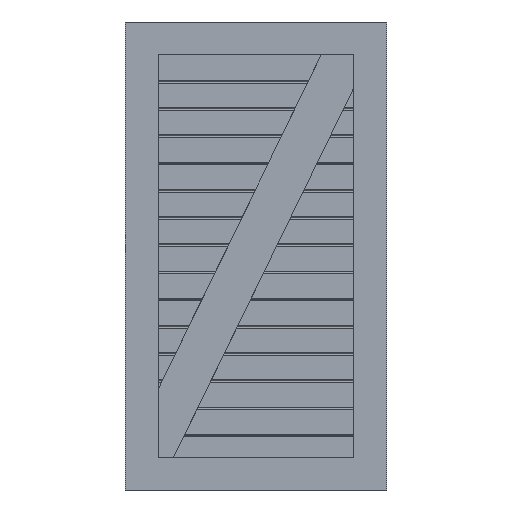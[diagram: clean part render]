
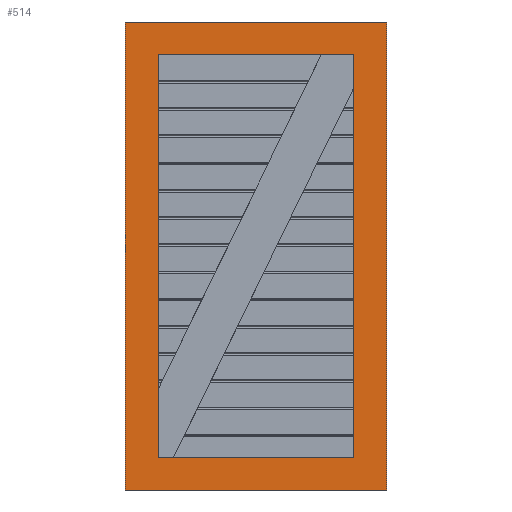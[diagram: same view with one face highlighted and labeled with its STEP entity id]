
A CAD part, left-side view. The second image highlights one B-rep face of the part: STEP entity #514.
In plain terms, the highlighted planar face has unit normal (-1, 0, 0).
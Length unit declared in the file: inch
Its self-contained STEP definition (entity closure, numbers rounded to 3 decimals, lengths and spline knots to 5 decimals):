
#5 = EDGE_CURVE ( 'NONE', #391, #2576, #1829, .T. ) ;
#50 = VERTEX_POINT ( 'NONE', #1396 ) ;
#184 = ORIENTED_EDGE ( 'NONE', *, *, #1560, .F. ) ;
#211 = ORIENTED_EDGE ( 'NONE', *, *, #1017, .T. ) ;
#241 = CARTESIAN_POINT ( 'NONE',  ( -4.1875, 0.375, -2.3125 ) ) ;
#273 = VERTEX_POINT ( 'NONE', #2695 ) ;
#303 = ORIENTED_EDGE ( 'NONE', *, *, #1569, .F. ) ;
#357 = VERTEX_POINT ( 'NONE', #1835 ) ;
#371 = VECTOR ( 'NONE', #1880, 39.37008 ) ;
#391 = VERTEX_POINT ( 'NONE', #3031 ) ;
#474 = CARTESIAN_POINT ( 'NONE',  ( -4.1875, 0., 2.6875 ) ) ;
#485 = CARTESIAN_POINT ( 'NONE',  ( -4.1875, 0.375, 2.3125 ) ) ;
#491 = CARTESIAN_POINT ( 'NONE',  ( -4.1875, 2.625, -2.3125 ) ) ;
#498 = PLANE ( 'NONE',  #1337 ) ;
#509 = DIRECTION ( 'NONE',  ( 1., 0., 0. ) ) ;
#514 = ADVANCED_FACE ( 'NONE', ( #1012, #686 ), #498, .F. ) ;
#686 = FACE_BOUND ( 'NONE', #2447, .T. ) ;
#708 = DIRECTION ( 'NONE',  ( 0., -1., 0. ) ) ;
#744 = VERTEX_POINT ( 'NONE', #2472 ) ;
#861 = VECTOR ( 'NONE', #3027, 39.37008 ) ;
#898 = ORIENTED_EDGE ( 'NONE', *, *, #5, .T. ) ;
#907 = VECTOR ( 'NONE', #708, 39.37008 ) ;
#975 = EDGE_CURVE ( 'NONE', #273, #391, #1478, .T. ) ;
#1012 = FACE_OUTER_BOUND ( 'NONE', #1311, .T. ) ;
#1017 = EDGE_CURVE ( 'NONE', #357, #1419, #2774, .T. ) ;
#1081 = ORIENTED_EDGE ( 'NONE', *, *, #1611, .T. ) ;
#1160 = DIRECTION ( 'NONE',  ( 0., 0., -1. ) ) ;
#1166 = ORIENTED_EDGE ( 'NONE', *, *, #2453, .T. ) ;
#1173 = VECTOR ( 'NONE', #2048, 39.37008 ) ;
#1212 = DIRECTION ( 'NONE',  ( 0., 1., 0. ) ) ;
#1311 = EDGE_LOOP ( 'NONE', ( #211, #184, #303, #1166 ) ) ;
#1337 = AXIS2_PLACEMENT_3D ( 'NONE', #2383, #509, #2149 ) ;
#1396 = CARTESIAN_POINT ( 'NONE',  ( -4.1875, 3., 2.6875 ) ) ;
#1419 = VERTEX_POINT ( 'NONE', #2959 ) ;
#1427 = LINE ( 'NONE', #1873, #861 ) ;
#1478 = LINE ( 'NONE', #241, #2138 ) ;
#1560 = EDGE_CURVE ( 'NONE', #50, #1419, #2357, .T. ) ;
#1569 = EDGE_CURVE ( 'NONE', #744, #50, #1803, .T. ) ;
#1583 = CARTESIAN_POINT ( 'NONE',  ( -4.1875, 3., 2.6875 ) ) ;
#1611 = EDGE_CURVE ( 'NONE', #2576, #2706, #1844, .T. ) ;
#1712 = VECTOR ( 'NONE', #1212, 39.37008 ) ;
#1803 = LINE ( 'NONE', #1583, #1173 ) ;
#1829 = LINE ( 'NONE', #2359, #1712 ) ;
#1835 = CARTESIAN_POINT ( 'NONE',  ( -4.1875, 0., -2.6875 ) ) ;
#1844 = LINE ( 'NONE', #491, #371 ) ;
#1873 = CARTESIAN_POINT ( 'NONE',  ( -4.1875, 3., -2.6875 ) ) ;
#1880 = DIRECTION ( 'NONE',  ( 0., 0., 1. ) ) ;
#2026 = VECTOR ( 'NONE', #3046, 39.37008 ) ;
#2048 = DIRECTION ( 'NONE',  ( 0., 0., 1. ) ) ;
#2066 = EDGE_CURVE ( 'NONE', #2706, #273, #3023, .T. ) ;
#2079 = ORIENTED_EDGE ( 'NONE', *, *, #975, .T. ) ;
#2091 = DIRECTION ( 'NONE',  ( 0., -1., 0. ) ) ;
#2138 = VECTOR ( 'NONE', #1160, 39.37008 ) ;
#2145 = CARTESIAN_POINT ( 'NONE',  ( -4.1875, 2.625, -2.3125 ) ) ;
#2149 = DIRECTION ( 'NONE',  ( 0., 0., -1. ) ) ;
#2297 = CARTESIAN_POINT ( 'NONE',  ( -4.1875, 3., 2.6875 ) ) ;
#2357 = LINE ( 'NONE', #2297, #2982 ) ;
#2359 = CARTESIAN_POINT ( 'NONE',  ( -4.1875, 0.375, -2.3125 ) ) ;
#2383 = CARTESIAN_POINT ( 'NONE',  ( -4.1875, 3., 2.6875 ) ) ;
#2431 = CARTESIAN_POINT ( 'NONE',  ( -4.1875, 2.625, 2.3125 ) ) ;
#2447 = EDGE_LOOP ( 'NONE', ( #2468, #2079, #898, #1081 ) ) ;
#2453 = EDGE_CURVE ( 'NONE', #744, #357, #1427, .T. ) ;
#2468 = ORIENTED_EDGE ( 'NONE', *, *, #2066, .T. ) ;
#2472 = CARTESIAN_POINT ( 'NONE',  ( -4.1875, 3., -2.6875 ) ) ;
#2576 = VERTEX_POINT ( 'NONE', #2145 ) ;
#2695 = CARTESIAN_POINT ( 'NONE',  ( -4.1875, 0.375, 2.3125 ) ) ;
#2706 = VERTEX_POINT ( 'NONE', #2431 ) ;
#2774 = LINE ( 'NONE', #474, #2026 ) ;
#2959 = CARTESIAN_POINT ( 'NONE',  ( -4.1875, 0., 2.6875 ) ) ;
#2982 = VECTOR ( 'NONE', #2091, 39.37008 ) ;
#3023 = LINE ( 'NONE', #485, #907 ) ;
#3027 = DIRECTION ( 'NONE',  ( 0., -1., 0. ) ) ;
#3031 = CARTESIAN_POINT ( 'NONE',  ( -4.1875, 0.375, -2.3125 ) ) ;
#3046 = DIRECTION ( 'NONE',  ( 0., 0., 1. ) ) ;
